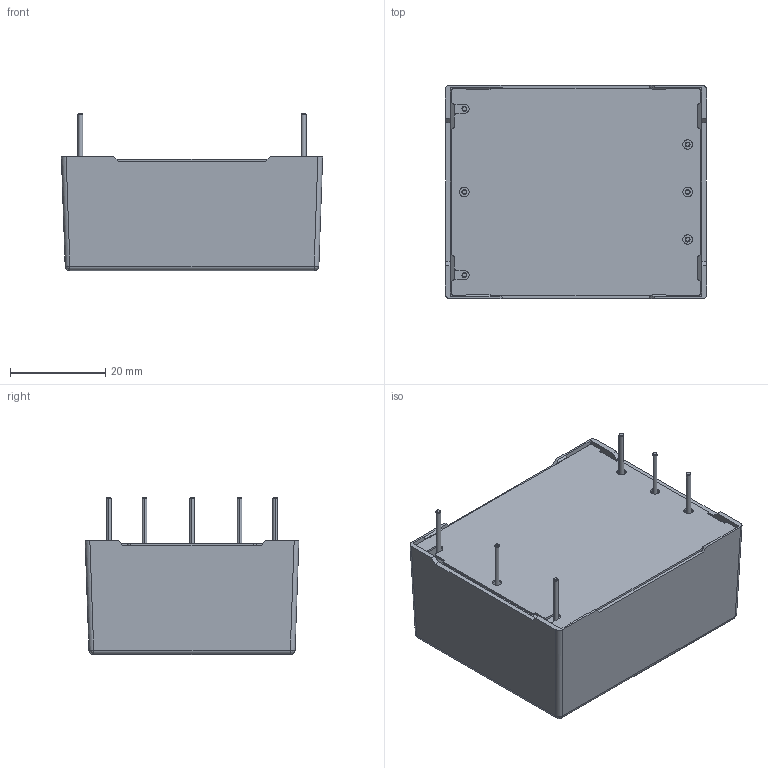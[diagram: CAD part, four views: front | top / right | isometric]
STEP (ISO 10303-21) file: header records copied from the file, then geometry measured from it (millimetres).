
FILE_DESCRIPTION (( 'STEP AP214' ), '1' );
FILE_NAME ('tms10-pcb-dual.STEP', '2015-12-22T13:06:11', ( '' ), ( '' ), 'SwSTEP 2.0', 'SolidWorks 2013', '' );
FILE_SCHEMA (( 'AUTOMOTIVE_DESIGN' ));
Length unit declared in the file: millimetre
Products named in the file (4): Pin; Base; Case; tms10-pcb-dual
Assembly tree (8 placements, depth 2):
  tms10-pcb-dual
    Case
    Base
    Pin  x6
Bounding box: 55 x 45 x 33.1 mm (x, y, z)
Volume: 7418.6 mm3; surface area: 18408.2 mm2
Topology: 8 solids, 8 shells, 251 faces, 636 edges, 404 vertices
Faces by surface type: plane 134, cylinder 85, cone 24, sphere 4, bspline 4
Entity records: 9065 total; most frequent: CARTESIAN_POINT 1368, ORIENTED_EDGE 1132, DIRECTION 1040, EDGE_CURVE 566, VECTOR 424, LINE 424, VERTEX_POINT 364, AXIS2_PLACEMENT_3D 308
